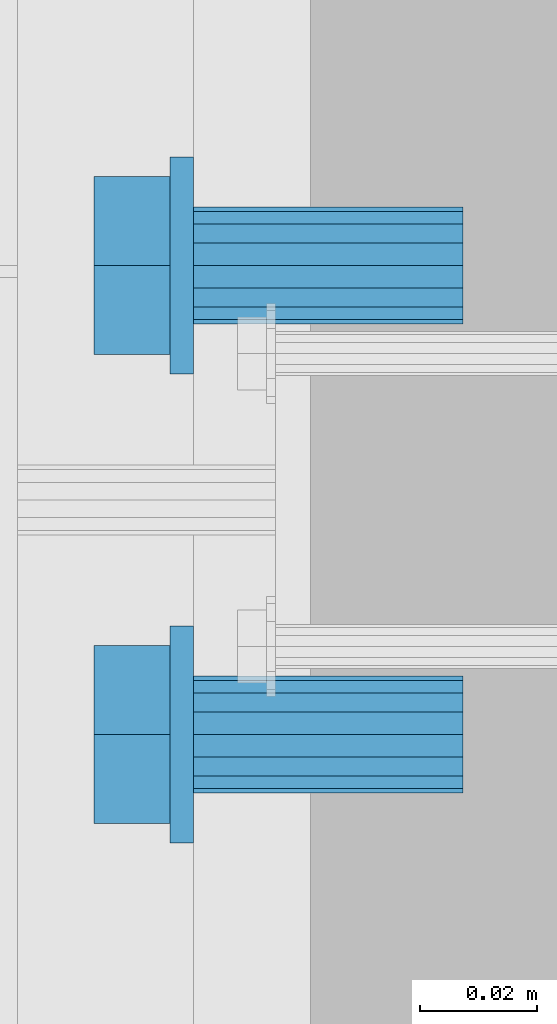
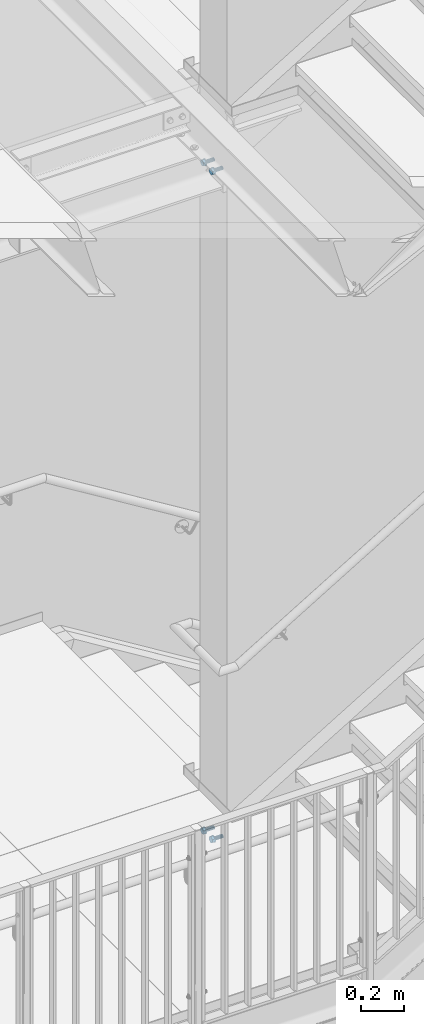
# One storey, part 214 of 410: 4 mechanical fasteners.
"""IFC2X3 building model written with IfcOpenShell, lengths in millimetres."""

from ifc_helpers import new_model, entity, si_unit, converted_unit, origin_with_axes, place, context, project, spatial, faceted_brep, element, save


model = new_model("IFC2X3")

# Units and contexts
model_context = context("Model", 3, precision=1e-09, world=origin_with_axes())
ifc_project = project(units=[si_unit("LENGTHUNIT", "METRE", prefix="MILLI"), si_unit("AREAUNIT", "SQUARE_METRE"), si_unit("VOLUMEUNIT", "CUBIC_METRE"), converted_unit("PLANEANGLEUNIT", "DEGREE", entity("IfcPlaneAngleMeasure", 0.01745329), si_unit("PLANEANGLEUNIT", "RADIAN"), dimensions=[0, 0, 0, 0, 0, 0, 0])], contexts=[model_context])

# Site, building, storey
site_placement = place(None, origin_with_axes())
site = spatial("IfcSite", under=ifc_project, at=site_placement, Name="mKR Teilneubau & Sanierung BA1 - Ostfildern", CompositionType="ELEMENT")
building_placement = place(site_placement, origin_with_axes())
building = spatial("IfcBuilding", under=site, at=building_placement, Name="Struktur 1", CompositionType="ELEMENT")
storey_placement = place(building_placement, origin_with_axes())
storey = spatial("IfcBuildingStorey", under=building, at=storey_placement, Name="Default Storey", CompositionType="ELEMENT", Elevation=0.0)

# Mechanical fasteners
mechanical_fastener_1_placement = place(None, origin_with_axes())
element("IfcMechanicalFastener", 1, at=mechanical_fastener_1_placement, inside=storey, ObjectType="-", NominalDiameter=20.0, NominalLength=50.0, context=model_context, shape_type="Brep", body=[
    faceted_brep([(-1729.0, 17038.5, 3545.0), (-1725.0, 17038.5, 3545.0), (-1725.0, 17038.144527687, 3541.390829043), (-1729.0, 17038.144527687, 3541.390829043), (-1725.0, 17037.091771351, 3537.920356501), (-1729.0, 17037.091771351, 3537.920356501), (-1725.0, 17035.382187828, 3534.721950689), (-1729.0, 17035.382187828, 3534.721950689), (-1725.0, 17033.081475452, 3531.918524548), (-1729.0, 17033.081475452, 3531.918524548), (-1725.0, 17030.278049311, 3529.617812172), (-1729.0, 17030.278049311, 3529.617812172), (-1725.0, 17027.079643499, 3527.908228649), (-1729.0, 17027.079643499, 3527.908228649), (-1725.0, 17023.609170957, 3526.855472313), (-1729.0, 17023.609170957, 3526.855472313), (-1725.0, 17020.0, 3526.5), (-1729.0, 17020.0, 3526.5), (-1725.0, 17016.390829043, 3526.855472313), (-1729.0, 17016.390829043, 3526.855472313), (-1725.0, 17012.920356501, 3527.908228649), (-1729.0, 17012.920356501, 3527.908228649), (-1725.0, 17009.721950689, 3529.617812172), (-1729.0, 17009.721950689, 3529.617812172), (-1725.0, 17006.918524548, 3531.918524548), (-1729.0, 17006.918524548, 3531.918524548), (-1725.0, 17004.617812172, 3534.721950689), (-1729.0, 17004.617812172, 3534.721950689), (-1725.0, 17002.908228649, 3537.920356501), (-1729.0, 17002.908228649, 3537.920356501), (-1725.0, 17001.855472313, 3541.390829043), (-1729.0, 17001.855472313, 3541.390829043), (-1725.0, 17001.5, 3545.0), (-1729.0, 17001.5, 3545.0), (-1725.0, 17001.855472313, 3548.609170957), (-1729.0, 17001.855472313, 3548.609170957), (-1725.0, 17002.908228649, 3552.079643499), (-1729.0, 17002.908228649, 3552.079643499), (-1725.0, 17004.617812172, 3555.278049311), (-1729.0, 17004.617812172, 3555.278049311), (-1725.0, 17006.918524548, 3558.081475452), (-1729.0, 17006.918524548, 3558.081475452), (-1725.0, 17009.721950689, 3560.382187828), (-1729.0, 17009.721950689, 3560.382187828), (-1725.0, 17012.920356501, 3562.091771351), (-1729.0, 17012.920356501, 3562.091771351), (-1725.0, 17016.390829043, 3563.144527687), (-1729.0, 17016.390829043, 3563.144527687), (-1725.0, 17020.0, 3563.5), (-1729.0, 17020.0, 3563.5), (-1725.0, 17023.609170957, 3563.144527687), (-1729.0, 17023.609170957, 3563.144527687), (-1725.0, 17027.079643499, 3562.091771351), (-1729.0, 17027.079643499, 3562.091771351), (-1725.0, 17030.278049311, 3560.382187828), (-1729.0, 17030.278049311, 3560.382187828), (-1725.0, 17033.081475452, 3558.081475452), (-1729.0, 17033.081475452, 3558.081475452), (-1725.0, 17035.382187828, 3555.278049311), (-1729.0, 17035.382187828, 3555.278049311), (-1725.0, 17037.091771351, 3552.079643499), (-1729.0, 17037.091771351, 3552.079643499), (-1725.0, 17038.144527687, 3548.609170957), (-1729.0, 17038.144527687, 3548.609170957)], [[[0, 1, 2, 3]], [[3, 2, 4, 5]], [[5, 4, 6, 7]], [[7, 6, 8, 9]], [[9, 8, 10, 11]], [[11, 10, 12, 13]], [[13, 12, 14, 15]], [[15, 14, 16, 17]], [[17, 16, 18, 19]], [[19, 18, 20, 21]], [[21, 20, 22, 23]], [[23, 22, 24, 25]], [[25, 24, 26, 27]], [[27, 26, 28, 29]], [[29, 28, 30, 31]], [[31, 30, 32, 33]], [[33, 32, 34, 35]], [[35, 34, 36, 37]], [[37, 36, 38, 39]], [[39, 38, 40, 41]], [[41, 40, 42, 43]], [[43, 42, 44, 45]], [[45, 44, 46, 47]], [[47, 46, 48, 49]], [[49, 48, 50, 51]], [[51, 50, 52, 53]], [[53, 52, 54, 55]], [[55, 54, 56, 57]], [[57, 56, 58, 59]], [[59, 58, 60, 61]], [[61, 60, 62, 63]], [[63, 62, 1, 0]], [[0, 3, 5, 7, 9, 11, 13, 15, 17, 19, 21, 23, 25, 27, 29, 31, 33, 35, 37, 39, 41, 43, 45, 47, 49, 51, 53, 55, 57, 59, 61, 63]], [[1, 62, 60, 58, 56, 54, 52, 50, 48, 46, 44, 42, 40, 38, 36, 34, 32, 30, 28, 26, 24, 22, 20, 18, 16, 14, 12, 10, 8, 6, 4, 2]]]),
    faceted_brep([(-1729.0, 17004.831565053, 3536.2425), (-1742.0, 17004.831565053, 3536.2425), (-1742.0, 17020.0, 3527.485), (-1729.0, 17020.0, 3527.485), (-1742.0, 17035.168434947, 3536.2425), (-1729.0, 17035.168434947, 3536.2425), (-1742.0, 17035.168434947, 3553.7575), (-1729.0, 17035.168434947, 3553.7575), (-1742.0, 17020.0, 3562.515), (-1729.0, 17020.0, 3562.515), (-1742.0, 17004.831565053, 3553.7575), (-1729.0, 17004.831565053, 3553.7575)], [[[0, 1, 2, 3]], [[3, 2, 4, 5]], [[5, 4, 6, 7]], [[7, 6, 8, 9]], [[9, 8, 10, 11]], [[11, 10, 1, 0]], [[4, 2, 1, 10, 8, 6]], [[0, 3, 5, 7, 9, 11]]]),
    faceted_brep([(-1725.0, 17030.0, 3545.0), (-1705.0, 17030.0, 3545.0), (-1705.0, 17029.238795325, 3541.173165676), (-1725.0, 17029.238795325, 3541.173165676), (-1705.0, 17027.071067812, 3537.928932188), (-1725.0, 17027.071067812, 3537.928932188), (-1705.0, 17023.826834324, 3535.761204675), (-1725.0, 17023.826834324, 3535.761204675), (-1705.0, 17020.0, 3535.0), (-1725.0, 17020.0, 3535.0), (-1705.0, 17016.173165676, 3535.761204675), (-1725.0, 17016.173165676, 3535.761204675), (-1705.0, 17012.928932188, 3537.928932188), (-1725.0, 17012.928932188, 3537.928932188), (-1705.0, 17010.761204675, 3541.173165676), (-1725.0, 17010.761204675, 3541.173165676), (-1705.0, 17010.0, 3545.0), (-1725.0, 17010.0, 3545.0), (-1705.0, 17010.761204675, 3548.826834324), (-1725.0, 17010.761204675, 3548.826834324), (-1705.0, 17012.928932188, 3552.071067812), (-1725.0, 17012.928932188, 3552.071067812), (-1705.0, 17016.173165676, 3554.238795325), (-1725.0, 17016.173165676, 3554.238795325), (-1705.0, 17020.0, 3555.0), (-1725.0, 17020.0, 3555.0), (-1705.0, 17023.826834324, 3554.238795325), (-1725.0, 17023.826834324, 3554.238795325), (-1705.0, 17027.071067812, 3552.071067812), (-1725.0, 17027.071067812, 3552.071067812), (-1705.0, 17029.238795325, 3548.826834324), (-1725.0, 17029.238795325, 3548.826834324)], [[[0, 1, 2, 3]], [[3, 2, 4, 5]], [[5, 4, 6, 7]], [[7, 6, 8, 9]], [[9, 8, 10, 11]], [[11, 10, 12, 13]], [[13, 12, 14, 15]], [[15, 14, 16, 17]], [[17, 16, 18, 19]], [[19, 18, 20, 21]], [[21, 20, 22, 23]], [[23, 22, 24, 25]], [[25, 24, 26, 27]], [[27, 26, 28, 29]], [[29, 28, 30, 31]], [[31, 30, 1, 0]], [[0, 3, 5, 7, 9, 11, 13, 15, 17, 19, 21, 23, 25, 27, 29, 31]], [[1, 30, 28, 26, 24, 22, 20, 18, 16, 14, 12, 10, 8, 6, 4, 2]]]),
    faceted_brep([(-1705.0, 17030.0, 3545.0), (-1679.0, 17030.0, 3545.0), (-1679.0, 17029.238795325, 3541.173165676), (-1705.0, 17029.238795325, 3541.173165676), (-1679.0, 17027.071067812, 3537.928932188), (-1705.0, 17027.071067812, 3537.928932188), (-1679.0, 17023.826834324, 3535.761204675), (-1705.0, 17023.826834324, 3535.761204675), (-1679.0, 17020.0, 3535.0), (-1705.0, 17020.0, 3535.0), (-1679.0, 17016.173165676, 3535.761204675), (-1705.0, 17016.173165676, 3535.761204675), (-1679.0, 17012.928932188, 3537.928932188), (-1705.0, 17012.928932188, 3537.928932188), (-1679.0, 17010.761204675, 3541.173165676), (-1705.0, 17010.761204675, 3541.173165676), (-1679.0, 17010.0, 3545.0), (-1705.0, 17010.0, 3545.0), (-1679.0, 17010.761204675, 3548.826834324), (-1705.0, 17010.761204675, 3548.826834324), (-1679.0, 17012.928932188, 3552.071067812), (-1705.0, 17012.928932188, 3552.071067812), (-1679.0, 17016.173165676, 3554.238795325), (-1705.0, 17016.173165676, 3554.238795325), (-1679.0, 17020.0, 3555.0), (-1705.0, 17020.0, 3555.0), (-1679.0, 17023.826834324, 3554.238795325), (-1705.0, 17023.826834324, 3554.238795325), (-1679.0, 17027.071067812, 3552.071067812), (-1705.0, 17027.071067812, 3552.071067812), (-1679.0, 17029.238795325, 3548.826834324), (-1705.0, 17029.238795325, 3548.826834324)], [[[0, 1, 2, 3]], [[3, 2, 4, 5]], [[5, 4, 6, 7]], [[7, 6, 8, 9]], [[9, 8, 10, 11]], [[11, 10, 12, 13]], [[13, 12, 14, 15]], [[15, 14, 16, 17]], [[17, 16, 18, 19]], [[19, 18, 20, 21]], [[21, 20, 22, 23]], [[23, 22, 24, 25]], [[25, 24, 26, 27]], [[27, 26, 28, 29]], [[29, 28, 30, 31]], [[31, 30, 1, 0]], [[0, 3, 5, 7, 9, 11, 13, 15, 17, 19, 21, 23, 25, 27, 29, 31]], [[1, 30, 28, 26, 24, 22, 20, 18, 16, 14, 12, 10, 8, 6, 4, 2]]]),
])
mechanical_fastener_2_placement = place(None, origin_with_axes())
element("IfcMechanicalFastener", 2, at=mechanical_fastener_2_placement, inside=storey, ObjectType="-", NominalDiameter=20.0, NominalLength=50.0, context=model_context, shape_type="Brep", body=[
    faceted_brep([(-1729.0, 16958.5, 3545.0), (-1725.0, 16958.5, 3545.0), (-1725.0, 16958.144527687, 3541.390829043), (-1729.0, 16958.144527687, 3541.390829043), (-1725.0, 16957.091771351, 3537.920356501), (-1729.0, 16957.091771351, 3537.920356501), (-1725.0, 16955.382187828, 3534.721950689), (-1729.0, 16955.382187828, 3534.721950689), (-1725.0, 16953.081475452, 3531.918524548), (-1729.0, 16953.081475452, 3531.918524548), (-1725.0, 16950.278049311, 3529.617812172), (-1729.0, 16950.278049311, 3529.617812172), (-1725.0, 16947.079643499, 3527.908228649), (-1729.0, 16947.079643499, 3527.908228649), (-1725.0, 16943.609170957, 3526.855472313), (-1729.0, 16943.609170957, 3526.855472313), (-1725.0, 16940.0, 3526.5), (-1729.0, 16940.0, 3526.5), (-1725.0, 16936.390829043, 3526.855472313), (-1729.0, 16936.390829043, 3526.855472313), (-1725.0, 16932.920356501, 3527.908228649), (-1729.0, 16932.920356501, 3527.908228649), (-1725.0, 16929.721950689, 3529.617812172), (-1729.0, 16929.721950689, 3529.617812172), (-1725.0, 16926.918524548, 3531.918524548), (-1729.0, 16926.918524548, 3531.918524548), (-1725.0, 16924.617812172, 3534.721950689), (-1729.0, 16924.617812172, 3534.721950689), (-1725.0, 16922.908228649, 3537.920356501), (-1729.0, 16922.908228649, 3537.920356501), (-1725.0, 16921.855472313, 3541.390829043), (-1729.0, 16921.855472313, 3541.390829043), (-1725.0, 16921.5, 3545.0), (-1729.0, 16921.5, 3545.0), (-1725.0, 16921.855472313, 3548.609170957), (-1729.0, 16921.855472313, 3548.609170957), (-1725.0, 16922.908228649, 3552.079643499), (-1729.0, 16922.908228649, 3552.079643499), (-1725.0, 16924.617812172, 3555.278049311), (-1729.0, 16924.617812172, 3555.278049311), (-1725.0, 16926.918524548, 3558.081475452), (-1729.0, 16926.918524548, 3558.081475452), (-1725.0, 16929.721950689, 3560.382187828), (-1729.0, 16929.721950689, 3560.382187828), (-1725.0, 16932.920356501, 3562.091771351), (-1729.0, 16932.920356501, 3562.091771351), (-1725.0, 16936.390829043, 3563.144527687), (-1729.0, 16936.390829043, 3563.144527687), (-1725.0, 16940.0, 3563.5), (-1729.0, 16940.0, 3563.5), (-1725.0, 16943.609170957, 3563.144527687), (-1729.0, 16943.609170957, 3563.144527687), (-1725.0, 16947.079643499, 3562.091771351), (-1729.0, 16947.079643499, 3562.091771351), (-1725.0, 16950.278049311, 3560.382187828), (-1729.0, 16950.278049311, 3560.382187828), (-1725.0, 16953.081475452, 3558.081475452), (-1729.0, 16953.081475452, 3558.081475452), (-1725.0, 16955.382187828, 3555.278049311), (-1729.0, 16955.382187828, 3555.278049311), (-1725.0, 16957.091771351, 3552.079643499), (-1729.0, 16957.091771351, 3552.079643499), (-1725.0, 16958.144527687, 3548.609170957), (-1729.0, 16958.144527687, 3548.609170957)], [[[0, 1, 2, 3]], [[3, 2, 4, 5]], [[5, 4, 6, 7]], [[7, 6, 8, 9]], [[9, 8, 10, 11]], [[11, 10, 12, 13]], [[13, 12, 14, 15]], [[15, 14, 16, 17]], [[17, 16, 18, 19]], [[19, 18, 20, 21]], [[21, 20, 22, 23]], [[23, 22, 24, 25]], [[25, 24, 26, 27]], [[27, 26, 28, 29]], [[29, 28, 30, 31]], [[31, 30, 32, 33]], [[33, 32, 34, 35]], [[35, 34, 36, 37]], [[37, 36, 38, 39]], [[39, 38, 40, 41]], [[41, 40, 42, 43]], [[43, 42, 44, 45]], [[45, 44, 46, 47]], [[47, 46, 48, 49]], [[49, 48, 50, 51]], [[51, 50, 52, 53]], [[53, 52, 54, 55]], [[55, 54, 56, 57]], [[57, 56, 58, 59]], [[59, 58, 60, 61]], [[61, 60, 62, 63]], [[63, 62, 1, 0]], [[0, 3, 5, 7, 9, 11, 13, 15, 17, 19, 21, 23, 25, 27, 29, 31, 33, 35, 37, 39, 41, 43, 45, 47, 49, 51, 53, 55, 57, 59, 61, 63]], [[1, 62, 60, 58, 56, 54, 52, 50, 48, 46, 44, 42, 40, 38, 36, 34, 32, 30, 28, 26, 24, 22, 20, 18, 16, 14, 12, 10, 8, 6, 4, 2]]]),
    faceted_brep([(-1729.0, 16924.831565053, 3536.2425), (-1742.0, 16924.831565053, 3536.2425), (-1742.0, 16940.0, 3527.485), (-1729.0, 16940.0, 3527.485), (-1742.0, 16955.168434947, 3536.2425), (-1729.0, 16955.168434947, 3536.2425), (-1742.0, 16955.168434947, 3553.7575), (-1729.0, 16955.168434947, 3553.7575), (-1742.0, 16940.0, 3562.515), (-1729.0, 16940.0, 3562.515), (-1742.0, 16924.831565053, 3553.7575), (-1729.0, 16924.831565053, 3553.7575)], [[[0, 1, 2, 3]], [[3, 2, 4, 5]], [[5, 4, 6, 7]], [[7, 6, 8, 9]], [[9, 8, 10, 11]], [[11, 10, 1, 0]], [[4, 2, 1, 10, 8, 6]], [[0, 3, 5, 7, 9, 11]]]),
    faceted_brep([(-1725.0, 16950.0, 3545.0), (-1705.0, 16950.0, 3545.0), (-1705.0, 16949.238795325, 3541.173165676), (-1725.0, 16949.238795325, 3541.173165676), (-1705.0, 16947.071067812, 3537.928932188), (-1725.0, 16947.071067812, 3537.928932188), (-1705.0, 16943.826834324, 3535.761204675), (-1725.0, 16943.826834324, 3535.761204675), (-1705.0, 16940.0, 3535.0), (-1725.0, 16940.0, 3535.0), (-1705.0, 16936.173165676, 3535.761204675), (-1725.0, 16936.173165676, 3535.761204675), (-1705.0, 16932.928932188, 3537.928932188), (-1725.0, 16932.928932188, 3537.928932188), (-1705.0, 16930.761204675, 3541.173165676), (-1725.0, 16930.761204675, 3541.173165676), (-1705.0, 16930.0, 3545.0), (-1725.0, 16930.0, 3545.0), (-1705.0, 16930.761204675, 3548.826834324), (-1725.0, 16930.761204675, 3548.826834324), (-1705.0, 16932.928932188, 3552.071067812), (-1725.0, 16932.928932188, 3552.071067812), (-1705.0, 16936.173165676, 3554.238795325), (-1725.0, 16936.173165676, 3554.238795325), (-1705.0, 16940.0, 3555.0), (-1725.0, 16940.0, 3555.0), (-1705.0, 16943.826834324, 3554.238795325), (-1725.0, 16943.826834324, 3554.238795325), (-1705.0, 16947.071067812, 3552.071067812), (-1725.0, 16947.071067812, 3552.071067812), (-1705.0, 16949.238795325, 3548.826834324), (-1725.0, 16949.238795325, 3548.826834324)], [[[0, 1, 2, 3]], [[3, 2, 4, 5]], [[5, 4, 6, 7]], [[7, 6, 8, 9]], [[9, 8, 10, 11]], [[11, 10, 12, 13]], [[13, 12, 14, 15]], [[15, 14, 16, 17]], [[17, 16, 18, 19]], [[19, 18, 20, 21]], [[21, 20, 22, 23]], [[23, 22, 24, 25]], [[25, 24, 26, 27]], [[27, 26, 28, 29]], [[29, 28, 30, 31]], [[31, 30, 1, 0]], [[0, 3, 5, 7, 9, 11, 13, 15, 17, 19, 21, 23, 25, 27, 29, 31]], [[1, 30, 28, 26, 24, 22, 20, 18, 16, 14, 12, 10, 8, 6, 4, 2]]]),
    faceted_brep([(-1705.0, 16950.0, 3545.0), (-1679.0, 16950.0, 3545.0), (-1679.0, 16949.238795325, 3541.173165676), (-1705.0, 16949.238795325, 3541.173165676), (-1679.0, 16947.071067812, 3537.928932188), (-1705.0, 16947.071067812, 3537.928932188), (-1679.0, 16943.826834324, 3535.761204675), (-1705.0, 16943.826834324, 3535.761204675), (-1679.0, 16940.0, 3535.0), (-1705.0, 16940.0, 3535.0), (-1679.0, 16936.173165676, 3535.761204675), (-1705.0, 16936.173165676, 3535.761204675), (-1679.0, 16932.928932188, 3537.928932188), (-1705.0, 16932.928932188, 3537.928932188), (-1679.0, 16930.761204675, 3541.173165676), (-1705.0, 16930.761204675, 3541.173165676), (-1679.0, 16930.0, 3545.0), (-1705.0, 16930.0, 3545.0), (-1679.0, 16930.761204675, 3548.826834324), (-1705.0, 16930.761204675, 3548.826834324), (-1679.0, 16932.928932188, 3552.071067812), (-1705.0, 16932.928932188, 3552.071067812), (-1679.0, 16936.173165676, 3554.238795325), (-1705.0, 16936.173165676, 3554.238795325), (-1679.0, 16940.0, 3555.0), (-1705.0, 16940.0, 3555.0), (-1679.0, 16943.826834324, 3554.238795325), (-1705.0, 16943.826834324, 3554.238795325), (-1679.0, 16947.071067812, 3552.071067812), (-1705.0, 16947.071067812, 3552.071067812), (-1679.0, 16949.238795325, 3548.826834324), (-1705.0, 16949.238795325, 3548.826834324)], [[[0, 1, 2, 3]], [[3, 2, 4, 5]], [[5, 4, 6, 7]], [[7, 6, 8, 9]], [[9, 8, 10, 11]], [[11, 10, 12, 13]], [[13, 12, 14, 15]], [[15, 14, 16, 17]], [[17, 16, 18, 19]], [[19, 18, 20, 21]], [[21, 20, 22, 23]], [[23, 22, 24, 25]], [[25, 24, 26, 27]], [[27, 26, 28, 29]], [[29, 28, 30, 31]], [[31, 30, 1, 0]], [[0, 3, 5, 7, 9, 11, 13, 15, 17, 19, 21, 23, 25, 27, 29, 31]], [[1, 30, 28, 26, 24, 22, 20, 18, 16, 14, 12, 10, 8, 6, 4, 2]]]),
])
mechanical_fastener_3_placement = place(None, origin_with_axes())
element("IfcMechanicalFastener", 3, at=mechanical_fastener_3_placement, inside=storey, ObjectType="-", NominalDiameter=20.0, NominalLength=50.0, context=model_context, shape_type="Brep", body=[
    faceted_brep([(-1729.0, 17038.5, -240.0), (-1725.0, 17038.5, -240.0), (-1725.0, 17038.144527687, -243.609170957), (-1729.0, 17038.144527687, -243.609170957), (-1725.0, 17037.091771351, -247.079643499), (-1729.0, 17037.091771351, -247.079643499), (-1725.0, 17035.382187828, -250.278049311), (-1729.0, 17035.382187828, -250.278049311), (-1725.0, 17033.081475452, -253.081475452), (-1729.0, 17033.081475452, -253.081475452), (-1725.0, 17030.278049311, -255.382187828), (-1729.0, 17030.278049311, -255.382187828), (-1725.0, 17027.079643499, -257.091771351), (-1729.0, 17027.079643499, -257.091771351), (-1725.0, 17023.609170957, -258.144527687), (-1729.0, 17023.609170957, -258.144527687), (-1725.0, 17020.0, -258.5), (-1729.0, 17020.0, -258.5), (-1725.0, 17016.390829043, -258.144527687), (-1729.0, 17016.390829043, -258.144527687), (-1725.0, 17012.920356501, -257.091771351), (-1729.0, 17012.920356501, -257.091771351), (-1725.0, 17009.721950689, -255.382187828), (-1729.0, 17009.721950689, -255.382187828), (-1725.0, 17006.918524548, -253.081475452), (-1729.0, 17006.918524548, -253.081475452), (-1725.0, 17004.617812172, -250.278049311), (-1729.0, 17004.617812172, -250.278049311), (-1725.0, 17002.908228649, -247.079643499), (-1729.0, 17002.908228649, -247.079643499), (-1725.0, 17001.855472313, -243.609170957), (-1729.0, 17001.855472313, -243.609170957), (-1725.0, 17001.5, -240.0), (-1729.0, 17001.5, -240.0), (-1725.0, 17001.855472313, -236.390829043), (-1729.0, 17001.855472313, -236.390829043), (-1725.0, 17002.908228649, -232.920356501), (-1729.0, 17002.908228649, -232.920356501), (-1725.0, 17004.617812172, -229.721950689), (-1729.0, 17004.617812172, -229.721950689), (-1725.0, 17006.918524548, -226.918524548), (-1729.0, 17006.918524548, -226.918524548), (-1725.0, 17009.721950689, -224.617812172), (-1729.0, 17009.721950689, -224.617812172), (-1725.0, 17012.920356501, -222.908228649), (-1729.0, 17012.920356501, -222.908228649), (-1725.0, 17016.390829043, -221.855472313), (-1729.0, 17016.390829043, -221.855472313), (-1725.0, 17020.0, -221.5), (-1729.0, 17020.0, -221.5), (-1725.0, 17023.609170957, -221.855472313), (-1729.0, 17023.609170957, -221.855472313), (-1725.0, 17027.079643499, -222.908228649), (-1729.0, 17027.079643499, -222.908228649), (-1725.0, 17030.278049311, -224.617812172), (-1729.0, 17030.278049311, -224.617812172), (-1725.0, 17033.081475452, -226.918524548), (-1729.0, 17033.081475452, -226.918524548), (-1725.0, 17035.382187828, -229.721950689), (-1729.0, 17035.382187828, -229.721950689), (-1725.0, 17037.091771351, -232.920356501), (-1729.0, 17037.091771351, -232.920356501), (-1725.0, 17038.144527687, -236.390829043), (-1729.0, 17038.144527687, -236.390829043)], [[[0, 1, 2, 3]], [[3, 2, 4, 5]], [[5, 4, 6, 7]], [[7, 6, 8, 9]], [[9, 8, 10, 11]], [[11, 10, 12, 13]], [[13, 12, 14, 15]], [[15, 14, 16, 17]], [[17, 16, 18, 19]], [[19, 18, 20, 21]], [[21, 20, 22, 23]], [[23, 22, 24, 25]], [[25, 24, 26, 27]], [[27, 26, 28, 29]], [[29, 28, 30, 31]], [[31, 30, 32, 33]], [[33, 32, 34, 35]], [[35, 34, 36, 37]], [[37, 36, 38, 39]], [[39, 38, 40, 41]], [[41, 40, 42, 43]], [[43, 42, 44, 45]], [[45, 44, 46, 47]], [[47, 46, 48, 49]], [[49, 48, 50, 51]], [[51, 50, 52, 53]], [[53, 52, 54, 55]], [[55, 54, 56, 57]], [[57, 56, 58, 59]], [[59, 58, 60, 61]], [[61, 60, 62, 63]], [[63, 62, 1, 0]], [[0, 3, 5, 7, 9, 11, 13, 15, 17, 19, 21, 23, 25, 27, 29, 31, 33, 35, 37, 39, 41, 43, 45, 47, 49, 51, 53, 55, 57, 59, 61, 63]], [[1, 62, 60, 58, 56, 54, 52, 50, 48, 46, 44, 42, 40, 38, 36, 34, 32, 30, 28, 26, 24, 22, 20, 18, 16, 14, 12, 10, 8, 6, 4, 2]]]),
    faceted_brep([(-1729.0, 17004.831565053, -248.7575), (-1742.0, 17004.831565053, -248.7575), (-1742.0, 17020.0, -257.515), (-1729.0, 17020.0, -257.515), (-1742.0, 17035.168434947, -248.7575), (-1729.0, 17035.168434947, -248.7575), (-1742.0, 17035.168434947, -231.2425), (-1729.0, 17035.168434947, -231.2425), (-1742.0, 17020.0, -222.485), (-1729.0, 17020.0, -222.485), (-1742.0, 17004.831565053, -231.2425), (-1729.0, 17004.831565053, -231.2425)], [[[0, 1, 2, 3]], [[3, 2, 4, 5]], [[5, 4, 6, 7]], [[7, 6, 8, 9]], [[9, 8, 10, 11]], [[11, 10, 1, 0]], [[4, 2, 1, 10, 8, 6]], [[0, 3, 5, 7, 9, 11]]]),
    faceted_brep([(-1725.0, 17030.0, -240.0), (-1705.0, 17030.0, -240.0), (-1705.0, 17029.238795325, -243.826834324), (-1725.0, 17029.238795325, -243.826834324), (-1705.0, 17027.071067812, -247.071067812), (-1725.0, 17027.071067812, -247.071067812), (-1705.0, 17023.826834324, -249.238795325), (-1725.0, 17023.826834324, -249.238795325), (-1705.0, 17020.0, -250.0), (-1725.0, 17020.0, -250.0), (-1705.0, 17016.173165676, -249.238795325), (-1725.0, 17016.173165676, -249.238795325), (-1705.0, 17012.928932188, -247.071067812), (-1725.0, 17012.928932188, -247.071067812), (-1705.0, 17010.761204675, -243.826834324), (-1725.0, 17010.761204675, -243.826834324), (-1705.0, 17010.0, -240.0), (-1725.0, 17010.0, -240.0), (-1705.0, 17010.761204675, -236.173165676), (-1725.0, 17010.761204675, -236.173165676), (-1705.0, 17012.928932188, -232.928932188), (-1725.0, 17012.928932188, -232.928932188), (-1705.0, 17016.173165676, -230.761204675), (-1725.0, 17016.173165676, -230.761204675), (-1705.0, 17020.0, -230.0), (-1725.0, 17020.0, -230.0), (-1705.0, 17023.826834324, -230.761204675), (-1725.0, 17023.826834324, -230.761204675), (-1705.0, 17027.071067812, -232.928932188), (-1725.0, 17027.071067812, -232.928932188), (-1705.0, 17029.238795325, -236.173165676), (-1725.0, 17029.238795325, -236.173165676)], [[[0, 1, 2, 3]], [[3, 2, 4, 5]], [[5, 4, 6, 7]], [[7, 6, 8, 9]], [[9, 8, 10, 11]], [[11, 10, 12, 13]], [[13, 12, 14, 15]], [[15, 14, 16, 17]], [[17, 16, 18, 19]], [[19, 18, 20, 21]], [[21, 20, 22, 23]], [[23, 22, 24, 25]], [[25, 24, 26, 27]], [[27, 26, 28, 29]], [[29, 28, 30, 31]], [[31, 30, 1, 0]], [[0, 3, 5, 7, 9, 11, 13, 15, 17, 19, 21, 23, 25, 27, 29, 31]], [[1, 30, 28, 26, 24, 22, 20, 18, 16, 14, 12, 10, 8, 6, 4, 2]]]),
    faceted_brep([(-1705.0, 17030.0, -240.0), (-1679.0, 17030.0, -240.0), (-1679.0, 17029.238795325, -243.826834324), (-1705.0, 17029.238795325, -243.826834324), (-1679.0, 17027.071067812, -247.071067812), (-1705.0, 17027.071067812, -247.071067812), (-1679.0, 17023.826834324, -249.238795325), (-1705.0, 17023.826834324, -249.238795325), (-1679.0, 17020.0, -250.0), (-1705.0, 17020.0, -250.0), (-1679.0, 17016.173165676, -249.238795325), (-1705.0, 17016.173165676, -249.238795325), (-1679.0, 17012.928932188, -247.071067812), (-1705.0, 17012.928932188, -247.071067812), (-1679.0, 17010.761204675, -243.826834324), (-1705.0, 17010.761204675, -243.826834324), (-1679.0, 17010.0, -240.0), (-1705.0, 17010.0, -240.0), (-1679.0, 17010.761204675, -236.173165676), (-1705.0, 17010.761204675, -236.173165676), (-1679.0, 17012.928932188, -232.928932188), (-1705.0, 17012.928932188, -232.928932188), (-1679.0, 17016.173165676, -230.761204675), (-1705.0, 17016.173165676, -230.761204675), (-1679.0, 17020.0, -230.0), (-1705.0, 17020.0, -230.0), (-1679.0, 17023.826834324, -230.761204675), (-1705.0, 17023.826834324, -230.761204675), (-1679.0, 17027.071067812, -232.928932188), (-1705.0, 17027.071067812, -232.928932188), (-1679.0, 17029.238795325, -236.173165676), (-1705.0, 17029.238795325, -236.173165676)], [[[0, 1, 2, 3]], [[3, 2, 4, 5]], [[5, 4, 6, 7]], [[7, 6, 8, 9]], [[9, 8, 10, 11]], [[11, 10, 12, 13]], [[13, 12, 14, 15]], [[15, 14, 16, 17]], [[17, 16, 18, 19]], [[19, 18, 20, 21]], [[21, 20, 22, 23]], [[23, 22, 24, 25]], [[25, 24, 26, 27]], [[27, 26, 28, 29]], [[29, 28, 30, 31]], [[31, 30, 1, 0]], [[0, 3, 5, 7, 9, 11, 13, 15, 17, 19, 21, 23, 25, 27, 29, 31]], [[1, 30, 28, 26, 24, 22, 20, 18, 16, 14, 12, 10, 8, 6, 4, 2]]]),
])
mechanical_fastener_4_placement = place(None, origin_with_axes())
element("IfcMechanicalFastener", 4, at=mechanical_fastener_4_placement, inside=storey, ObjectType="-", NominalDiameter=20.0, NominalLength=50.0, context=model_context, shape_type="Brep", body=[
    faceted_brep([(-1729.0, 16958.5, -240.0), (-1725.0, 16958.5, -240.0), (-1725.0, 16958.144527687, -243.609170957), (-1729.0, 16958.144527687, -243.609170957), (-1725.0, 16957.091771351, -247.079643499), (-1729.0, 16957.091771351, -247.079643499), (-1725.0, 16955.382187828, -250.278049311), (-1729.0, 16955.382187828, -250.278049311), (-1725.0, 16953.081475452, -253.081475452), (-1729.0, 16953.081475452, -253.081475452), (-1725.0, 16950.278049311, -255.382187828), (-1729.0, 16950.278049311, -255.382187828), (-1725.0, 16947.079643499, -257.091771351), (-1729.0, 16947.079643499, -257.091771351), (-1725.0, 16943.609170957, -258.144527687), (-1729.0, 16943.609170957, -258.144527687), (-1725.0, 16940.0, -258.5), (-1729.0, 16940.0, -258.5), (-1725.0, 16936.390829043, -258.144527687), (-1729.0, 16936.390829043, -258.144527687), (-1725.0, 16932.920356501, -257.091771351), (-1729.0, 16932.920356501, -257.091771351), (-1725.0, 16929.721950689, -255.382187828), (-1729.0, 16929.721950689, -255.382187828), (-1725.0, 16926.918524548, -253.081475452), (-1729.0, 16926.918524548, -253.081475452), (-1725.0, 16924.617812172, -250.278049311), (-1729.0, 16924.617812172, -250.278049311), (-1725.0, 16922.908228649, -247.079643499), (-1729.0, 16922.908228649, -247.079643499), (-1725.0, 16921.855472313, -243.609170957), (-1729.0, 16921.855472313, -243.609170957), (-1725.0, 16921.5, -240.0), (-1729.0, 16921.5, -240.0), (-1725.0, 16921.855472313, -236.390829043), (-1729.0, 16921.855472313, -236.390829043), (-1725.0, 16922.908228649, -232.920356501), (-1729.0, 16922.908228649, -232.920356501), (-1725.0, 16924.617812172, -229.721950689), (-1729.0, 16924.617812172, -229.721950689), (-1725.0, 16926.918524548, -226.918524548), (-1729.0, 16926.918524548, -226.918524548), (-1725.0, 16929.721950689, -224.617812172), (-1729.0, 16929.721950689, -224.617812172), (-1725.0, 16932.920356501, -222.908228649), (-1729.0, 16932.920356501, -222.908228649), (-1725.0, 16936.390829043, -221.855472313), (-1729.0, 16936.390829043, -221.855472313), (-1725.0, 16940.0, -221.5), (-1729.0, 16940.0, -221.5), (-1725.0, 16943.609170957, -221.855472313), (-1729.0, 16943.609170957, -221.855472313), (-1725.0, 16947.079643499, -222.908228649), (-1729.0, 16947.079643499, -222.908228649), (-1725.0, 16950.278049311, -224.617812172), (-1729.0, 16950.278049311, -224.617812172), (-1725.0, 16953.081475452, -226.918524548), (-1729.0, 16953.081475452, -226.918524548), (-1725.0, 16955.382187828, -229.721950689), (-1729.0, 16955.382187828, -229.721950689), (-1725.0, 16957.091771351, -232.920356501), (-1729.0, 16957.091771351, -232.920356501), (-1725.0, 16958.144527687, -236.390829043), (-1729.0, 16958.144527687, -236.390829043)], [[[0, 1, 2, 3]], [[3, 2, 4, 5]], [[5, 4, 6, 7]], [[7, 6, 8, 9]], [[9, 8, 10, 11]], [[11, 10, 12, 13]], [[13, 12, 14, 15]], [[15, 14, 16, 17]], [[17, 16, 18, 19]], [[19, 18, 20, 21]], [[21, 20, 22, 23]], [[23, 22, 24, 25]], [[25, 24, 26, 27]], [[27, 26, 28, 29]], [[29, 28, 30, 31]], [[31, 30, 32, 33]], [[33, 32, 34, 35]], [[35, 34, 36, 37]], [[37, 36, 38, 39]], [[39, 38, 40, 41]], [[41, 40, 42, 43]], [[43, 42, 44, 45]], [[45, 44, 46, 47]], [[47, 46, 48, 49]], [[49, 48, 50, 51]], [[51, 50, 52, 53]], [[53, 52, 54, 55]], [[55, 54, 56, 57]], [[57, 56, 58, 59]], [[59, 58, 60, 61]], [[61, 60, 62, 63]], [[63, 62, 1, 0]], [[0, 3, 5, 7, 9, 11, 13, 15, 17, 19, 21, 23, 25, 27, 29, 31, 33, 35, 37, 39, 41, 43, 45, 47, 49, 51, 53, 55, 57, 59, 61, 63]], [[1, 62, 60, 58, 56, 54, 52, 50, 48, 46, 44, 42, 40, 38, 36, 34, 32, 30, 28, 26, 24, 22, 20, 18, 16, 14, 12, 10, 8, 6, 4, 2]]]),
    faceted_brep([(-1729.0, 16924.831565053, -248.7575), (-1742.0, 16924.831565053, -248.7575), (-1742.0, 16940.0, -257.515), (-1729.0, 16940.0, -257.515), (-1742.0, 16955.168434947, -248.7575), (-1729.0, 16955.168434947, -248.7575), (-1742.0, 16955.168434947, -231.2425), (-1729.0, 16955.168434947, -231.2425), (-1742.0, 16940.0, -222.485), (-1729.0, 16940.0, -222.485), (-1742.0, 16924.831565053, -231.2425), (-1729.0, 16924.831565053, -231.2425)], [[[0, 1, 2, 3]], [[3, 2, 4, 5]], [[5, 4, 6, 7]], [[7, 6, 8, 9]], [[9, 8, 10, 11]], [[11, 10, 1, 0]], [[4, 2, 1, 10, 8, 6]], [[0, 3, 5, 7, 9, 11]]]),
    faceted_brep([(-1725.0, 16950.0, -240.0), (-1705.0, 16950.0, -240.0), (-1705.0, 16949.238795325, -243.826834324), (-1725.0, 16949.238795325, -243.826834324), (-1705.0, 16947.071067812, -247.071067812), (-1725.0, 16947.071067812, -247.071067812), (-1705.0, 16943.826834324, -249.238795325), (-1725.0, 16943.826834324, -249.238795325), (-1705.0, 16940.0, -250.0), (-1725.0, 16940.0, -250.0), (-1705.0, 16936.173165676, -249.238795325), (-1725.0, 16936.173165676, -249.238795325), (-1705.0, 16932.928932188, -247.071067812), (-1725.0, 16932.928932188, -247.071067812), (-1705.0, 16930.761204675, -243.826834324), (-1725.0, 16930.761204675, -243.826834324), (-1705.0, 16930.0, -240.0), (-1725.0, 16930.0, -240.0), (-1705.0, 16930.761204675, -236.173165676), (-1725.0, 16930.761204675, -236.173165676), (-1705.0, 16932.928932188, -232.928932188), (-1725.0, 16932.928932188, -232.928932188), (-1705.0, 16936.173165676, -230.761204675), (-1725.0, 16936.173165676, -230.761204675), (-1705.0, 16940.0, -230.0), (-1725.0, 16940.0, -230.0), (-1705.0, 16943.826834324, -230.761204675), (-1725.0, 16943.826834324, -230.761204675), (-1705.0, 16947.071067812, -232.928932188), (-1725.0, 16947.071067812, -232.928932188), (-1705.0, 16949.238795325, -236.173165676), (-1725.0, 16949.238795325, -236.173165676)], [[[0, 1, 2, 3]], [[3, 2, 4, 5]], [[5, 4, 6, 7]], [[7, 6, 8, 9]], [[9, 8, 10, 11]], [[11, 10, 12, 13]], [[13, 12, 14, 15]], [[15, 14, 16, 17]], [[17, 16, 18, 19]], [[19, 18, 20, 21]], [[21, 20, 22, 23]], [[23, 22, 24, 25]], [[25, 24, 26, 27]], [[27, 26, 28, 29]], [[29, 28, 30, 31]], [[31, 30, 1, 0]], [[0, 3, 5, 7, 9, 11, 13, 15, 17, 19, 21, 23, 25, 27, 29, 31]], [[1, 30, 28, 26, 24, 22, 20, 18, 16, 14, 12, 10, 8, 6, 4, 2]]]),
    faceted_brep([(-1705.0, 16950.0, -240.0), (-1679.0, 16950.0, -240.0), (-1679.0, 16949.238795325, -243.826834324), (-1705.0, 16949.238795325, -243.826834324), (-1679.0, 16947.071067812, -247.071067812), (-1705.0, 16947.071067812, -247.071067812), (-1679.0, 16943.826834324, -249.238795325), (-1705.0, 16943.826834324, -249.238795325), (-1679.0, 16940.0, -250.0), (-1705.0, 16940.0, -250.0), (-1679.0, 16936.173165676, -249.238795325), (-1705.0, 16936.173165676, -249.238795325), (-1679.0, 16932.928932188, -247.071067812), (-1705.0, 16932.928932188, -247.071067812), (-1679.0, 16930.761204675, -243.826834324), (-1705.0, 16930.761204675, -243.826834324), (-1679.0, 16930.0, -240.0), (-1705.0, 16930.0, -240.0), (-1679.0, 16930.761204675, -236.173165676), (-1705.0, 16930.761204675, -236.173165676), (-1679.0, 16932.928932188, -232.928932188), (-1705.0, 16932.928932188, -232.928932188), (-1679.0, 16936.173165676, -230.761204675), (-1705.0, 16936.173165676, -230.761204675), (-1679.0, 16940.0, -230.0), (-1705.0, 16940.0, -230.0), (-1679.0, 16943.826834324, -230.761204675), (-1705.0, 16943.826834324, -230.761204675), (-1679.0, 16947.071067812, -232.928932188), (-1705.0, 16947.071067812, -232.928932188), (-1679.0, 16949.238795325, -236.173165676), (-1705.0, 16949.238795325, -236.173165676)], [[[0, 1, 2, 3]], [[3, 2, 4, 5]], [[5, 4, 6, 7]], [[7, 6, 8, 9]], [[9, 8, 10, 11]], [[11, 10, 12, 13]], [[13, 12, 14, 15]], [[15, 14, 16, 17]], [[17, 16, 18, 19]], [[19, 18, 20, 21]], [[21, 20, 22, 23]], [[23, 22, 24, 25]], [[25, 24, 26, 27]], [[27, 26, 28, 29]], [[29, 28, 30, 31]], [[31, 30, 1, 0]], [[0, 3, 5, 7, 9, 11, 13, 15, 17, 19, 21, 23, 25, 27, 29, 31]], [[1, 30, 28, 26, 24, 22, 20, 18, 16, 14, 12, 10, 8, 6, 4, 2]]]),
])

save(model, "model.ifc")
